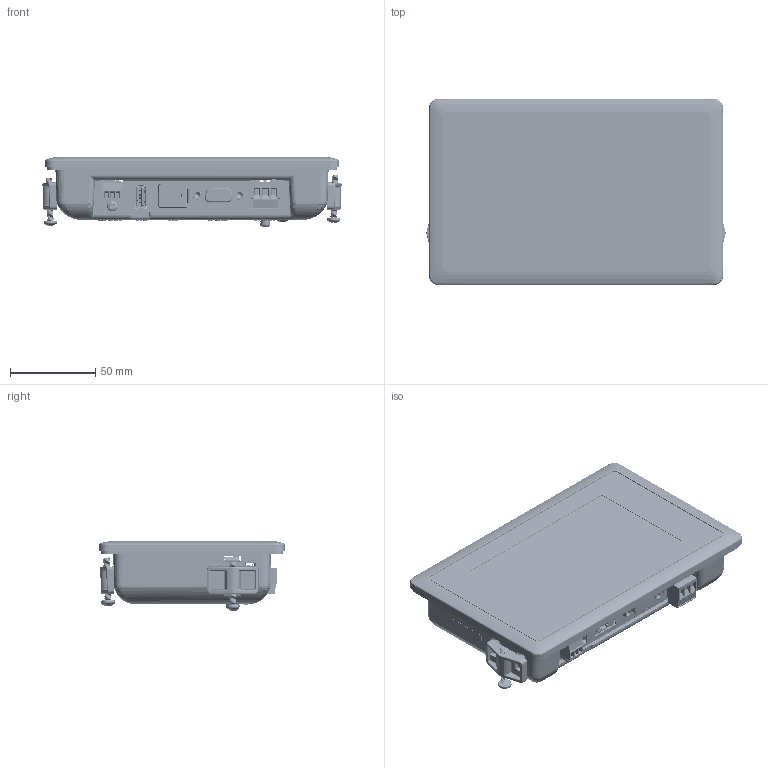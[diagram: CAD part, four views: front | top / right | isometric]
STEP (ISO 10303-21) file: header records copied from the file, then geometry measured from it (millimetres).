
FILE_DESCRIPTION (( 'STEP AP214' ), '1' );
FILE_NAME ('T5F-3 Step(corrected).STEP', '2020-11-26T15:58:24', ( '' ), ( '' ), 'SwSTEP 2.0', 'SolidWorks 2020', '' );
FILE_SCHEMA (( 'AUTOMOTIVE_DESIGN' ));
Length unit declared in the file: millimetre
Products named in the file (56): T5F-3 Step (corrected)51^T5F-3 Step (corrected)(2)_T5F-3 Step (corrected); T5F-3 Step (corrected)14^T5F-3 Step (corrected)(2)_T5F-3 Step (corrected); T5F-3 Step (corrected)48^T5F-3 Step (corrected)(2)_T5F-3 Step (corrected); T5F-3 Step (corrected)5^T5F-3 Step (corrected)(2)_T5F-3 Step (corrected); T5F-3 Step (corrected)30^T5F-3 Step (corrected)(2)_T5F-3 Step (corrected); T5F-3 Step (corrected)1^T5F-3 Step (corrected)(2)_T5F-3 Step (corrected); T5F-3 Step (corrected)18^T5F-3 Step (corrected)(2)_T5F-3 Step (corrected); T5F-3 Step (corrected)7^T5F-3 Step (corrected)(2)_T5F-3 Step (corrected); T5F-3 Step (corrected)6^T5F-3 Step (corrected)(2)_T5F-3 Step (corrected); T5F-3 Step (corrected)45^T5F-3 Step (corrected)(2)_T5F-3 Step (corrected); T5F-3 Step (corrected)26^T5F-3 Step (corrected)(2)_T5F-3 Step (corrected); T5F-3 Step (corrected)25^T5F-3 Step (corrected)(2)_T5F-3 Step (corrected); T5F-3 Step (corrected)37^T5F-3 Step (corrected)(2)_T5F-3 Step (corrected); T5F-3 Step (corrected)4^T5F-3 Step (corrected)(2)_T5F-3 Step (corrected); T5F-3 Step (corrected)12^T5F-3 Step (corrected)(2)_T5F-3 Step (corrected); T5F-3 Step (corrected)(2)^T5F-3 Step (corrected); T5F-3 Step (corrected)19^T5F-3 Step (corrected)(2)_T5F-3 Step (corrected); T5F-3 Step (corrected)31^T5F-3 Step (corrected)(2)_T5F-3 Step (corrected); T5F-3 Step (corrected)22^T5F-3 Step (corrected)(2)_T5F-3 Step (corrected); T5F-3 Step (corrected)43^T5F-3 Step (corrected)(2)_T5F-3 Step (corrected); T5F-3 Step (corrected)20^T5F-3 Step (corrected)(2)_T5F-3 Step (corrected); T5F-3 Step (corrected)33^T5F-3 Step (corrected)(2)_T5F-3 Step (corrected); T5F-3 Step (corrected)10^T5F-3 Step (corrected)(2)_T5F-3 Step (corrected); T5F-3 Step (corrected)29^T5F-3 Step (corrected)(2)_T5F-3 Step (corrected); T5F-3 Step (corrected)27^T5F-3 Step (corrected)(2)_T5F-3 Step (corrected); T5F-3 Step (corrected)3^T5F-3 Step (corrected)(2)_T5F-3 Step (corrected); T5F-3 Step (corrected)50^T5F-3 Step (corrected)(2)_T5F-3 Step (corrected); T5F-3 Step (corrected)35^T5F-3 Step (corrected)(2)_T5F-3 Step (corrected); T5F-3 Step (corrected)32^T5F-3 Step (corrected)(2)_T5F-3 Step (corrected); T5F-3 Step (corrected)46^T5F-3 Step (corrected)(2)_T5F-3 Step (corrected); T5F-3 Step (corrected)28^T5F-3 Step (corrected)(2)_T5F-3 Step (corrected); T5F-3 Step (corrected)39^T5F-3 Step (corrected)(2)_T5F-3 Step (corrected); T5F-3 Step (corrected)24^T5F-3 Step (corrected)(2)_T5F-3 Step (corrected); T5F-3 Step (corrected)53^T5F-3 Step (corrected)(2)_T5F-3 Step (corrected); T5F-3 Step (corrected)41^T5F-3 Step (corrected)(2)_T5F-3 Step (corrected); T5F-3 Step (corrected)36^T5F-3 Step (corrected)(2)_T5F-3 Step (corrected); T5F-3 Step (corrected)44^T5F-3 Step (corrected)(2)_T5F-3 Step (corrected); T5F-3 Step (corrected)11^T5F-3 Step (corrected)(2)_T5F-3 Step (corrected); T5F-3 Step (corrected)16^T5F-3 Step (corrected)(2)_T5F-3 Step (corrected); T5F-3 Step (corrected)23^T5F-3 Step (corrected)(2)_T5F-3 Step (corrected)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
Assembly tree (55 placements, depth 3):
  T5F-3 Step(corrected)
    T5F-3 Step (corrected)(2)^T5F-3 Step (corrected)
      T5F-3 Step (corrected)1^T5F-3 Step (corrected)(2)_T5F-3 Step (corrected)
      T5F-3 Step (corrected)2^T5F-3 Step (corrected)(2)_T5F-3 Step (corrected)
      T5F-3 Step (corrected)3^T5F-3 Step (corrected)(2)_T5F-3 Step (corrected)
      T5F-3 Step (corrected)4^T5F-3 Step (corrected)(2)_T5F-3 Step (corrected)
      T5F-3 Step (corrected)5^T5F-3 Step (corrected)(2)_T5F-3 Step (corrected)
      T5F-3 Step (corrected)6^T5F-3 Step (corrected)(2)_T5F-3 Step (corrected)
      T5F-3 Step (corrected)7^T5F-3 Step (corrected)(2)_T5F-3 Step (corrected)
      T5F-3 Step (corrected)8^T5F-3 Step (corrected)(2)_T5F-3 Step (corrected)
      T5F-3 Step (corrected)9^T5F-3 Step (corrected)(2)_T5F-3 Step (corrected)
      T5F-3 Step (corrected)10^T5F-3 Step (corrected)(2)_T5F-3 Step (corrected)
      T5F-3 Step (corrected)11^T5F-3 Step (corrected)(2)_T5F-3 Step (corrected)
      T5F-3 Step (corrected)12^T5F-3 Step (corrected)(2)_T5F-3 Step (corrected)
      T5F-3 Step (corrected)13^T5F-3 Step (corrected)(2)_T5F-3 Step (corrected)
      T5F-3 Step (corrected)14^T5F-3 Step (corrected)(2)_T5F-3 Step (corrected)
      T5F-3 Step (corrected)15^T5F-3 Step (corrected)(2)_T5F-3 Step (corrected)
      T5F-3 Step (corrected)16^T5F-3 Step (corrected)(2)_T5F-3 Step (corrected)
      T5F-3 Step (corrected)17^T5F-3 Step (corrected)(2)_T5F-3 Step (corrected)
      T5F-3 Step (corrected)18^T5F-3 Step (corrected)(2)_T5F-3 Step (corrected)
      T5F-3 Step (corrected)19^T5F-3 Step (corrected)(2)_T5F-3 Step (corrected)
      T5F-3 Step (corrected)20^T5F-3 Step (corrected)(2)_T5F-3 Step (corrected)
      T5F-3 Step (corrected)21^T5F-3 Step (corrected)(2)_T5F-3 Step (corrected)
      T5F-3 Step (corrected)22^T5F-3 Step (corrected)(2)_T5F-3 Step (corrected)
      T5F-3 Step (corrected)23^T5F-3 Step (corrected)(2)_T5F-3 Step (corrected)
      T5F-3 Step (corrected)24^T5F-3 Step (corrected)(2)_T5F-3 Step (corrected)
      T5F-3 Step (corrected)25^T5F-3 Step (corrected)(2)_T5F-3 Step (corrected)
      T5F-3 Step (corrected)26^T5F-3 Step (corrected)(2)_T5F-3 Step (corrected)
      T5F-3 Step (corrected)27^T5F-3 Step (corrected)(2)_T5F-3 Step (corrected)
      T5F-3 Step (corrected)28^T5F-3 Step (corrected)(2)_T5F-3 Step (corrected)
      T5F-3 Step (corrected)29^T5F-3 Step (corrected)(2)_T5F-3 Step (corrected)
      T5F-3 Step (corrected)30^T5F-3 Step (corrected)(2)_T5F-3 Step (corrected)
      T5F-3 Step (corrected)31^T5F-3 Step (corrected)(2)_T5F-3 Step (corrected)
      T5F-3 Step (corrected)32^T5F-3 Step (corrected)(2)_T5F-3 Step (corrected)
      T5F-3 Step (corrected)33^T5F-3 Step (corrected)(2)_T5F-3 Step (corrected)
      T5F-3 Step (corrected)34^T5F-3 Step (corrected)(2)_T5F-3 Step (corrected)
      T5F-3 Step (corrected)35^T5F-3 Step (corrected)(2)_T5F-3 Step (corrected)
      T5F-3 Step (corrected)36^T5F-3 Step (corrected)(2)_T5F-3 Step (corrected)
      T5F-3 Step (corrected)37^T5F-3 Step (corrected)(2)_T5F-3 Step (corrected)
      T5F-3 Step (corrected)38^T5F-3 Step (corrected)(2)_T5F-3 Step (corrected)
      T5F-3 Step (corrected)39^T5F-3 Step (corrected)(2)_T5F-3 Step (corrected)
      T5F-3 Step (corrected)40^T5F-3 Step (corrected)(2)_T5F-3 Step (corrected)
      T5F-3 Step (corrected)41^T5F-3 Step (corrected)(2)_T5F-3 Step (corrected)
      T5F-3 Step (corrected)42^T5F-3 Step (corrected)(2)_T5F-3 Step (corrected)
      T5F-3 Step (corrected)43^T5F-3 Step (corrected)(2)_T5F-3 Step (corrected)
      T5F-3 Step (corrected)44^T5F-3 Step (corrected)(2)_T5F-3 Step (corrected)
      T5F-3 Step (corrected)45^T5F-3 Step (corrected)(2)_T5F-3 Step (corrected)
      T5F-3 Step (corrected)46^T5F-3 Step (corrected)(2)_T5F-3 Step (corrected)
      T5F-3 Step (corrected)47^T5F-3 Step (corrected)(2)_T5F-3 Step (corrected)
      T5F-3 Step (corrected)48^T5F-3 Step (corrected)(2)_T5F-3 Step (corrected)
      T5F-3 Step (corrected)49^T5F-3 Step (corrected)(2)_T5F-3 Step (corrected)
      T5F-3 Step (corrected)50^T5F-3 Step (corrected)(2)_T5F-3 Step (corrected)
      T5F-3 Step (corrected)51^T5F-3 Step (corrected)(2)_T5F-3 Step (corrected)
      T5F-3 Step (corrected)52^T5F-3 Step (corrected)(2)_T5F-3 Step (corrected)
      T5F-3 Step (corrected)53^T5F-3 Step (corrected)(2)_T5F-3 Step (corrected)
      T5F-3 Step (corrected)54^T5F-3 Step (corrected)(2)_T5F-3 Step (corrected)
Bounding box: 175.52 x 108.95 x 41.25 mm (x, y, z)
Volume: 217143.8 mm3; surface area: 254111.4 mm2
Topology: 54 solids, 58 shells, 8287 faces, 22312 edges, 14447 vertices
Faces by surface type: plane 4764, cylinder 2022, bspline 1199, cone 166, sphere 80, torus 56
Entity records: 341291 total; most frequent: CARTESIAN_POINT 137484, ORIENTED_EDGE 44490, DIRECTION 34024, EDGE_CURVE 22245, VECTOR 14776, LINE 14776, VERTEX_POINT 14442, AXIS2_PLACEMENT_3D 9624
